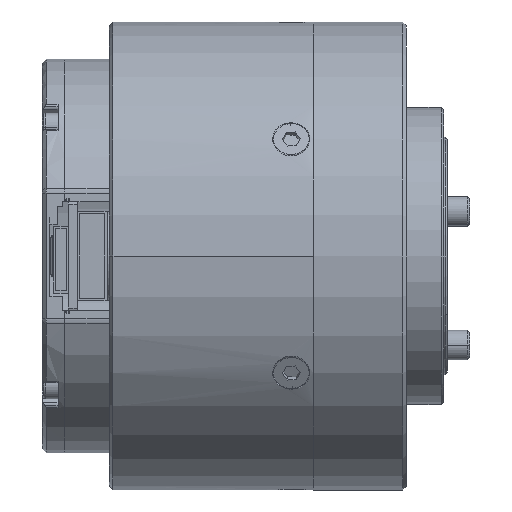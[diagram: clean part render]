
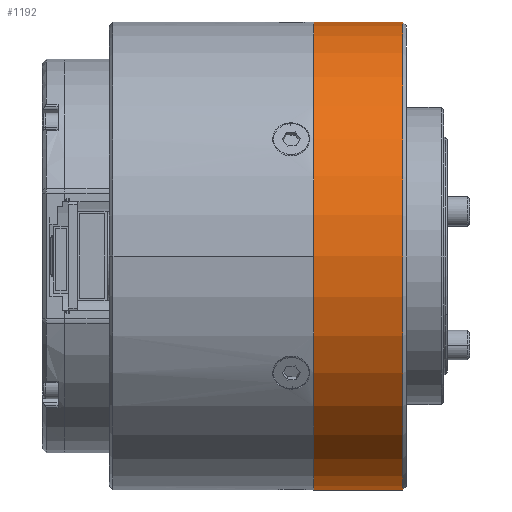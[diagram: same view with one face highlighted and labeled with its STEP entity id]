
A CAD part, left-side view. The second image highlights one B-rep face of the part: STEP entity #1192.
In plain terms, the highlighted cylindrical face has radius 31.5 mm (diameter 63 mm), a partial arc.
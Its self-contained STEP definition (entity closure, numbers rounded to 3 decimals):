
#567 = CYLINDRICAL_SURFACE ( 'NONE', #37022, 31.5 ) ;
#965 = LINE ( 'NONE', #19075, #32848 ) ;
#1192 = ADVANCED_FACE ( 'NONE', ( #14397 ), #567, .T. ) ;
#1581 = EDGE_CURVE ( 'NONE', #27051, #1872, #58563, .T. ) ;
#1805 = DIRECTION ( 'NONE',  ( 0., -1., 0. ) ) ;
#1872 = VERTEX_POINT ( 'NONE', #13725 ) ;
#3011 = ORIENTED_EDGE ( 'NONE', *, *, #58444, .T. ) ;
#4529 = EDGE_LOOP ( 'NONE', ( #11310, #16190, #3011, #33657 ) ) ;
#7417 = AXIS2_PLACEMENT_3D ( 'NONE', #17110, #54376, #34886 ) ;
#8026 = CARTESIAN_POINT ( 'NONE',  ( 0., -26.8, -31.5 ) ) ;
#11309 = CARTESIAN_POINT ( 'NONE',  ( 0., -149.767, 0. ) ) ;
#11310 = ORIENTED_EDGE ( 'NONE', *, *, #36987, .T. ) ;
#13257 = AXIS2_PLACEMENT_3D ( 'NONE', #15221, #42716, #52181 ) ;
#13725 = CARTESIAN_POINT ( 'NONE',  ( 0., -38.8, 31.5 ) ) ;
#14397 = FACE_OUTER_BOUND ( 'NONE', #4529, .T. ) ;
#14828 = CARTESIAN_POINT ( 'NONE',  ( 0., -38.8, -31.5 ) ) ;
#15221 = CARTESIAN_POINT ( 'NONE',  ( 0., -26.8, 0. ) ) ;
#16189 = DIRECTION ( 'NONE',  ( 0., 0., 1. ) ) ;
#16190 = ORIENTED_EDGE ( 'NONE', *, *, #50766, .T. ) ;
#16426 = DIRECTION ( 'NONE',  ( 0., -1., 0. ) ) ;
#17110 = CARTESIAN_POINT ( 'NONE',  ( 0., -38.8, 0. ) ) ;
#19075 = CARTESIAN_POINT ( 'NONE',  ( 0., -149.767, -31.5 ) ) ;
#27051 = VERTEX_POINT ( 'NONE', #58846 ) ;
#27286 = VERTEX_POINT ( 'NONE', #14828 ) ;
#32848 = VECTOR ( 'NONE', #57234, 1000. ) ;
#33657 = ORIENTED_EDGE ( 'NONE', *, *, #1581, .F. ) ;
#34205 = CARTESIAN_POINT ( 'NONE',  ( 0., -149.767, 31.5 ) ) ;
#34886 = DIRECTION ( 'NONE',  ( 0., 0., -1. ) ) ;
#35287 = VERTEX_POINT ( 'NONE', #8026 ) ;
#36987 = EDGE_CURVE ( 'NONE', #27051, #35287, #38641, .T. ) ;
#37022 = AXIS2_PLACEMENT_3D ( 'NONE', #11309, #1805, #16189 ) ;
#37059 = VECTOR ( 'NONE', #16426, 1000. ) ;
#38641 = CIRCLE ( 'NONE', #13257, 31.5 ) ;
#39644 = CIRCLE ( 'NONE', #7417, 31.5 ) ;
#42716 = DIRECTION ( 'NONE',  ( 0., -1., 0. ) ) ;
#50766 = EDGE_CURVE ( 'NONE', #35287, #27286, #965, .T. ) ;
#52181 = DIRECTION ( 'NONE',  ( 0., 0., 1. ) ) ;
#54376 = DIRECTION ( 'NONE',  ( 0., 1., 0. ) ) ;
#57234 = DIRECTION ( 'NONE',  ( 0., -1., 0. ) ) ;
#58444 = EDGE_CURVE ( 'NONE', #27286, #1872, #39644, .T. ) ;
#58563 = LINE ( 'NONE', #34205, #37059 ) ;
#58846 = CARTESIAN_POINT ( 'NONE',  ( 0., -26.8, 31.5 ) ) ;
